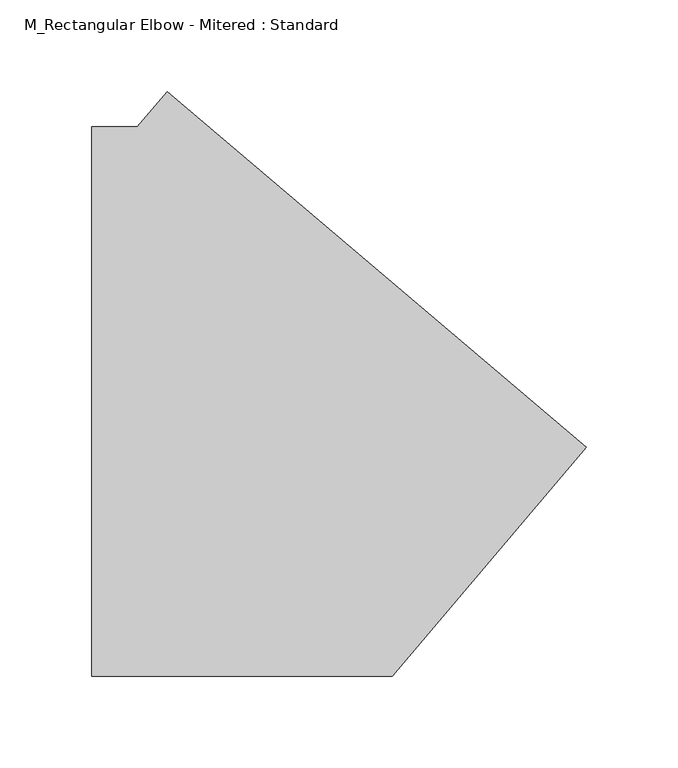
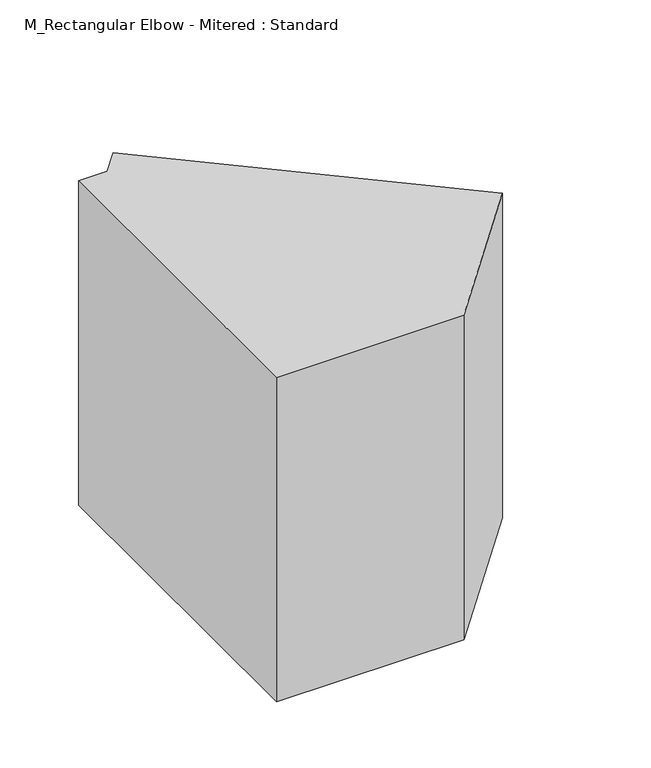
"""IFC4 building model written with IfcOpenShell, lengths in millimetres: duct fitting geometry, M_Rectangular Elbow - Mitered : Standard."""

from ifc_helpers import new_model, si_unit, frame, origin, place, context, project, spatial, polyline, outline, extrude, source, transform, mapped, element, save


def m_rectangular_elbow_mitered_standard_54764b4b(model_context):
    return source(origin(), model_context, "Body", "SweptSolid", [
        extrude(outline(polyline([(-94.4680067, -150.0), (-94.4680067, 150.0), (-69.4680067, 150.0), (-53.2981293, 169.0665955), (175.5010166, -24.9719338), (69.4680067, -150.0), (-94.4680067, -150.0)])), frame((0.0, 0.0, -150.0), z_axis=(0.0, 0.0, 1.0), x_axis=(1.0, 0.0, 0.0)), (0.0, 0.0, 1.0), 300.0),
        extrude(outline(polyline([(-94.4680067, -150.0), (-94.4680067, 150.0), (-69.4680067, 150.0), (-53.2981293, 169.0665955), (175.5010166, -24.9719338), (69.4680067, -150.0), (-94.4680067, -150.0)])), frame((0.0, 0.0, -150.0), z_axis=(0.0, 0.0, 1.0), x_axis=(1.0, 0.0, 0.0)), (0.0, 0.0, 1.0), 300.0),
        extrude(outline(polyline([(-94.4680067, -150.0), (-94.4680067, 150.0), (-69.4680067, 150.0), (-53.2981293, 169.0665955), (175.5010166, -24.9719338), (69.4680067, -150.0), (-94.4680067, -150.0)])), frame((0.0, 0.0, -150.0), z_axis=(0.0, 0.0, 1.0), x_axis=(1.0, 0.0, 0.0)), (0.0, 0.0, 1.0), 300.0),
    ])


if __name__ == "__main__":
    model = new_model("IFC4")
    model_context = context("Model", 3, world=origin())
    ifc_project = project(units=[si_unit("LENGTHUNIT", "METRE", prefix="MILLI")], contexts=[model_context])
    site = spatial("IfcSite", under=ifc_project)
    building = spatial("IfcBuilding", under=site)
    placement = place(None, origin())
    m_rectangular_elbow_mitered_standard_shape = m_rectangular_elbow_mitered_standard_54764b4b(model_context)
    element("IfcDuctFitting", 1, ObjectType="M_Rectangular Elbow - Mitered : Standard", at=placement, inside=building, context=model_context, shape_type="MappedRepresentation", body=[
        mapped(m_rectangular_elbow_mitered_standard_shape, transform((0.0, 0.0, 0.0), x_axis=(1.0, 0.0, 0.0), y_axis=(0.0, 1.0, 0.0), z_axis=(0.0, 0.0, 1.0))),
    ])
    save(model, "model.ifc")
